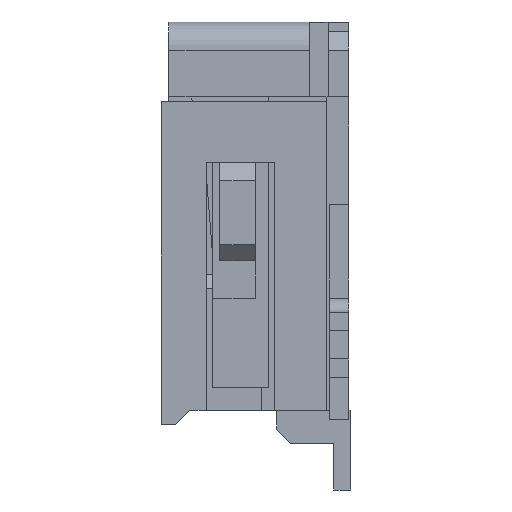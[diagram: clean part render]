
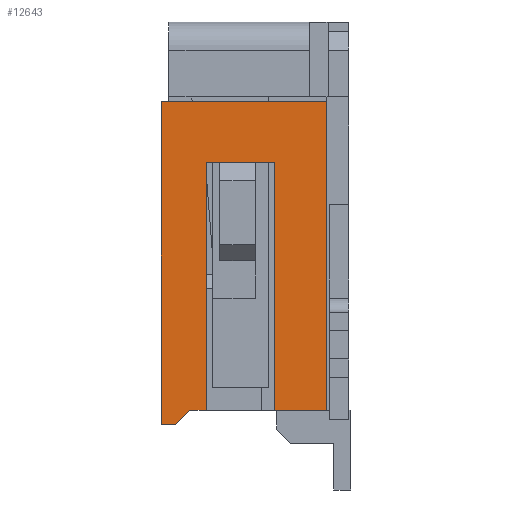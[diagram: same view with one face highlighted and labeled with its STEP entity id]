
A CAD part, left-side view. The second image highlights one B-rep face of the part: STEP entity #12643.
In plain terms, the highlighted planar face has unit normal (-1, 0, 0).
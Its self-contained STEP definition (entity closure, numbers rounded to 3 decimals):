
#4061=DIRECTION('',(0.,0.,-1.));
#4062=VECTOR('',#4061,3.3);
#4063=CARTESIAN_POINT('',(-5.9,0.24,3.45));
#4064=LINE('',#4063,#4062);
#4065=DIRECTION('',(0.,1.,0.));
#4066=VECTOR('',#4065,0.55);
#4067=CARTESIAN_POINT('',(-5.9,0.24,0.15));
#4068=LINE('',#4067,#4066);
#4069=DIRECTION('',(0.,0.,1.));
#4070=VECTOR('',#4069,2.65);
#4071=CARTESIAN_POINT('',(-5.9,0.79,0.15));
#4072=LINE('',#4071,#4070);
#4073=DIRECTION('',(0.,1.,0.));
#4074=VECTOR('',#4073,0.73);
#4075=CARTESIAN_POINT('',(-5.9,0.79,2.8));
#4076=LINE('',#4075,#4074);
#4077=DIRECTION('',(0.,0.,1.));
#4078=VECTOR('',#4077,2.65);
#4079=CARTESIAN_POINT('',(-5.9,1.52,0.15));
#4080=LINE('',#4079,#4078);
#4081=DIRECTION('',(0.,1.,0.));
#4082=VECTOR('',#4081,0.18);
#4083=CARTESIAN_POINT('',(-5.9,1.52,0.15));
#4084=LINE('',#4083,#4082);
#4085=DIRECTION('',(0.,-0.707,0.707));
#4086=VECTOR('',#4085,0.212);
#4087=CARTESIAN_POINT('',(-5.9,1.85,0.));
#4088=LINE('',#4087,#4086);
#4089=DIRECTION('',(0.,0.,1.));
#4090=VECTOR('',#4089,3.45);
#4091=CARTESIAN_POINT('',(-5.9,2.,0.));
#4092=LINE('',#4091,#4090);
#4093=DIRECTION('',(0.,-1.,0.));
#4094=VECTOR('',#4093,1.76);
#4095=CARTESIAN_POINT('',(-5.9,2.,3.45));
#4096=LINE('',#4095,#4094);
#4134=DIRECTION('',(0.,-1.,0.));
#4135=VECTOR('',#4134,0.15);
#4136=CARTESIAN_POINT('',(-5.9,2.,0.));
#4137=LINE('',#4136,#4135);
#6044=CARTESIAN_POINT('',(-5.9,2.,0.));
#6046=VERTEX_POINT('',#6044);
#6057=CARTESIAN_POINT('',(-5.9,1.85,0.));
#6059=VERTEX_POINT('',#6057);
#6063=CARTESIAN_POINT('',(-5.9,1.7,0.15));
#6064=VERTEX_POINT('',#6063);
#6079=CARTESIAN_POINT('',(-5.9,2.,3.45));
#6080=VERTEX_POINT('',#6079);
#6089=CARTESIAN_POINT('',(-5.9,0.79,2.8));
#6090=CARTESIAN_POINT('',(-5.9,1.52,2.8));
#6091=VERTEX_POINT('',#6089);
#6092=VERTEX_POINT('',#6090);
#6093=CARTESIAN_POINT('',(-5.9,1.52,0.15));
#6094=VERTEX_POINT('',#6093);
#6095=CARTESIAN_POINT('',(-5.9,0.79,0.15));
#6096=VERTEX_POINT('',#6095);
#6113=CARTESIAN_POINT('',(-5.9,0.24,3.45));
#6114=CARTESIAN_POINT('',(-5.9,0.24,0.15));
#6115=VERTEX_POINT('',#6113);
#6116=VERTEX_POINT('',#6114);
#12623=CARTESIAN_POINT('',(-5.9,2.,0.));
#12624=DIRECTION('',(-1.,0.,0.));
#12625=DIRECTION('',(0.,-1.,0.));
#12626=AXIS2_PLACEMENT_3D('',#12623,#12624,#12625);
#12627=PLANE('',#12626);
#12628=ORIENTED_EDGE('',*,*,#10670,.T.);
#12629=ORIENTED_EDGE('',*,*,#10834,.T.);
#12631=ORIENTED_EDGE('',*,*,#12630,.T.);
#12632=ORIENTED_EDGE('',*,*,#9702,.T.);
#12633=ORIENTED_EDGE('',*,*,#11732,.F.);
#12634=ORIENTED_EDGE('',*,*,#10824,.T.);
#12636=ORIENTED_EDGE('',*,*,#12635,.F.);
#12638=ORIENTED_EDGE('',*,*,#12637,.F.);
#12639=ORIENTED_EDGE('',*,*,#12582,.T.);
#12640=ORIENTED_EDGE('',*,*,#9580,.T.);
#12641=EDGE_LOOP('',(#12628,#12629,#12631,#12632,#12633,#12634,#12636,#12638,
#12639,#12640));
#12642=FACE_OUTER_BOUND('',#12641,.F.);
#12643=ADVANCED_FACE('',(#12642),#12627,.T.);
#9580=EDGE_CURVE('',#6080,#6115,#4096,.T.);
#9702=EDGE_CURVE('',#6091,#6092,#4076,.T.);
#10670=EDGE_CURVE('',#6115,#6116,#4064,.T.);
#10824=EDGE_CURVE('',#6094,#6064,#4084,.T.);
#10834=EDGE_CURVE('',#6116,#6096,#4068,.T.);
#11732=EDGE_CURVE('',#6094,#6092,#4080,.T.);
#12582=EDGE_CURVE('',#6046,#6080,#4092,.T.);
#12630=EDGE_CURVE('',#6096,#6091,#4072,.T.);
#12635=EDGE_CURVE('',#6059,#6064,#4088,.T.);
#12637=EDGE_CURVE('',#6046,#6059,#4137,.T.);
